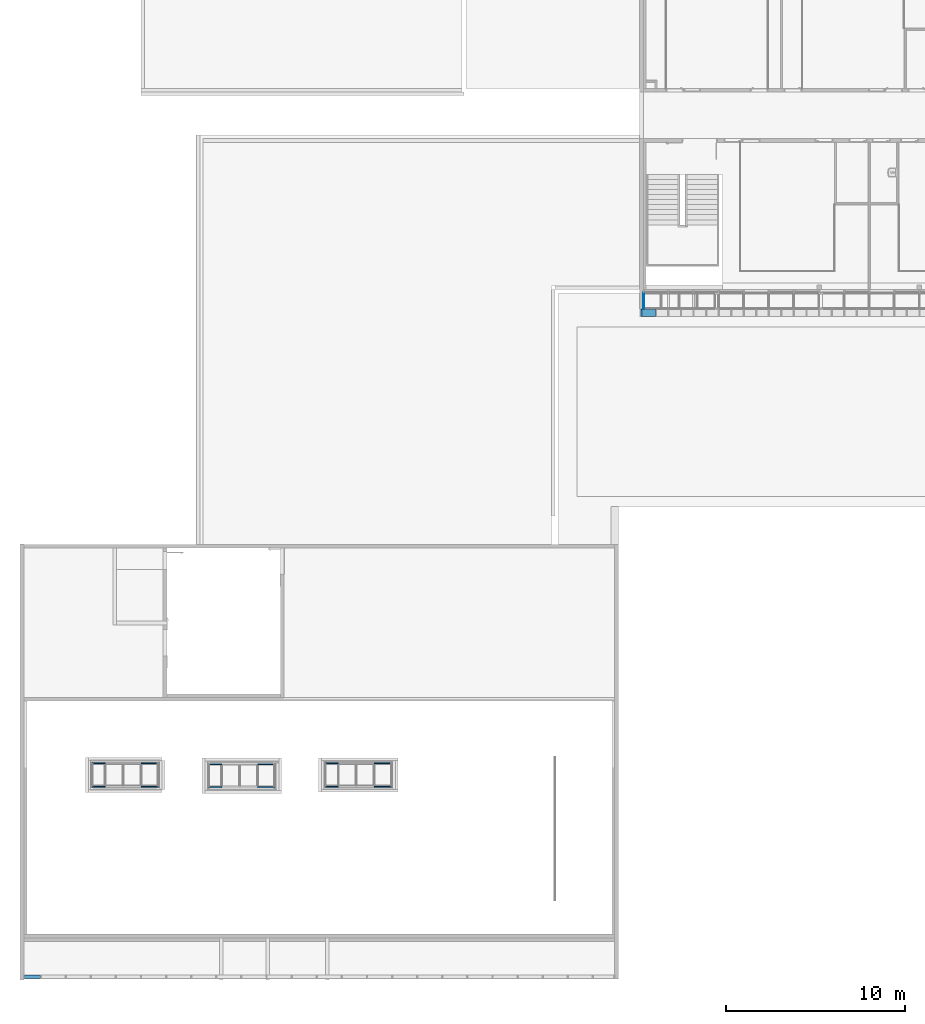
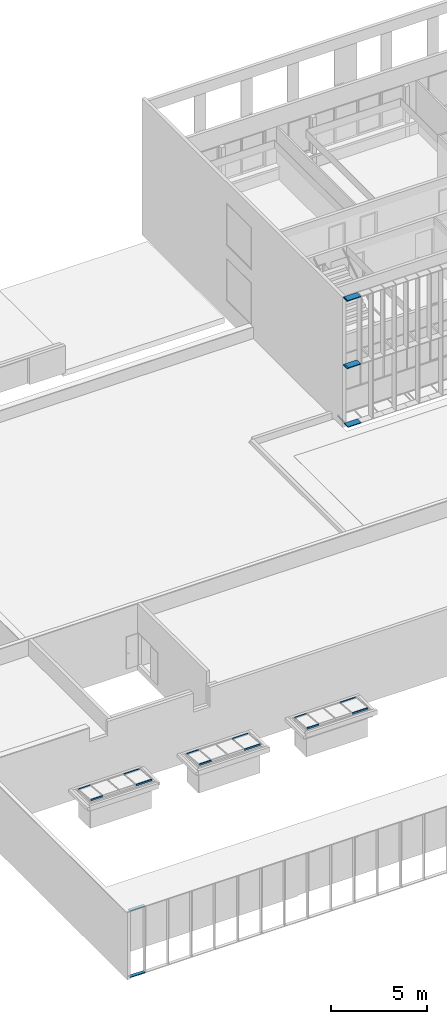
# One storey, part 19 of 106: 20 members, 6 elements without a shape of their own.
"""IFC2X3 building model written with IfcOpenShell, lengths in centimetres."""

from ifc_helpers import new_model, entity, si_unit, converted_unit, derived_unit, direction, frame, origin, origin_2d_with_axis, place, context, subcontext, project, spatial, rectangle, extrude, source, transform, mapped, material, type_object, type_shapes, element, aggregate, save


model = new_model("IFC2X3")

# Units and contexts
model_context = context("Model", 3, precision=0.001, world=origin(), true_north=direction((6.12303176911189e-17, 1.0)))
body_context = subcontext(model_context, "Body", "Model", "MODEL_VIEW")
ifc_project = project(units=[si_unit("LENGTHUNIT", "METRE", prefix="CENTI"), si_unit("AREAUNIT", "SQUARE_METRE"), si_unit("VOLUMEUNIT", "CUBIC_METRE"), converted_unit("PLANEANGLEUNIT", "DEGREE", entity("IfcRatioMeasure", 0.0174532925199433), si_unit("PLANEANGLEUNIT", "RADIAN"), dimensions=[0, 0, 0, 0, 0, 0, 0]), si_unit("MASSUNIT", "GRAM", prefix="KILO"), derived_unit("MASSDENSITYUNIT", [(si_unit("MASSUNIT", "GRAM", prefix="KILO"), 1), (si_unit("LENGTHUNIT", "METRE"), -3)]), si_unit("TIMEUNIT", "SECOND"), si_unit("FREQUENCYUNIT", "HERTZ"), si_unit("THERMODYNAMICTEMPERATUREUNIT", "DEGREE_CELSIUS"), derived_unit("THERMALTRANSMITTANCEUNIT", [(si_unit("MASSUNIT", "GRAM", prefix="KILO"), 1), (si_unit("THERMODYNAMICTEMPERATUREUNIT", "KELVIN"), -1), (si_unit("TIMEUNIT", "SECOND"), -3)]), derived_unit("VOLUMETRICFLOWRATEUNIT", [(si_unit("LENGTHUNIT", "METRE"), 3), (si_unit("TIMEUNIT", "SECOND"), -1)]), si_unit("ELECTRICCURRENTUNIT", "AMPERE"), si_unit("ELECTRICVOLTAGEUNIT", "VOLT"), si_unit("POWERUNIT", "WATT"), si_unit("FORCEUNIT", "NEWTON", prefix="KILO"), si_unit("ILLUMINANCEUNIT", "LUX"), si_unit("LUMINOUSFLUXUNIT", "LUMEN"), si_unit("LUMINOUSINTENSITYUNIT", "CANDELA"), derived_unit("USERDEFINED", [(si_unit("MASSUNIT", "GRAM", prefix="KILO"), -1), (si_unit("LENGTHUNIT", "METRE"), -2), (si_unit("TIMEUNIT", "SECOND"), 3), (si_unit("LUMINOUSFLUXUNIT", "LUMEN"), 1)]), derived_unit("LINEARVELOCITYUNIT", [(si_unit("LENGTHUNIT", "METRE"), 1), (si_unit("TIMEUNIT", "SECOND"), -1)]), si_unit("PRESSUREUNIT", "PASCAL"), derived_unit("USERDEFINED", [(si_unit("LENGTHUNIT", "METRE"), -2), (si_unit("MASSUNIT", "GRAM", prefix="KILO"), 1), (si_unit("TIMEUNIT", "SECOND"), -2)])], contexts=[model_context])

# Site, building, storey
site_placement = place(None, frame((-2781.94577612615, 7442.24238424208, 0.0)))
site = spatial("IfcSite", under=ifc_project, at=site_placement, Name="Default", CompositionType="ELEMENT")
building_placement = place(site_placement, origin())
building = spatial("IfcBuilding", under=site, at=building_placement, CompositionType="ELEMENT")
storey_placement = place(building_placement, frame((0.0, 0.0, 422.0)))
storey = spatial("IfcBuildingStorey", under=building, at=storey_placement, Name="Toiture - Cuisine", CompositionType="ELEMENT", Elevation=421.999999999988)

# Roof, member
curtain_wall_type_1 = type_object("IfcCurtainWallType", Name="Vitres inclinées:Toit en verre 1 m x 2 m", PredefinedType="NOTDEFINED")
roof_1_placement = place(building_placement, origin())
roof_1 = element("IfcRoof", 1, at=roof_1_placement, inside=storey, type_object=curtain_wall_type_1, Name="Vitres inclinées:Toit en verre 1 m x 2 m", ObjectType="Vitres inclinées:Toit en verre 1 m x 2 m", ShapeType="NOTDEFINED")
ifc_material_1 = material(Name="Plastique, blanc opaque")
member_type_1 = type_object("IfcMemberType", Name="100 x 50mm", PredefinedType="MEMBER")
shared_shape_1 = source(origin(), body_context, "Body", "SweptSolid", [
    extrude(rectangle(XDim=10.0, YDim=5.0, at=origin_2d_with_axis()), frame((-2.5, 0.0, -95.0), z_axis=(0.0, 0.0, 1.0), x_axis=(0.0, -1.0, 0.0)), (0.0, 0.0, 1.0), 95.0000000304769),
])
type_shapes(member_type_1, [shared_shape_1])
member_1_placement = place(building_placement, frame((-11114.3505746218, -4705.23544597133, 662.161362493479), z_axis=(1.0, 0.0, 0.0), x_axis=(0.0, -0.996194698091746, 0.0871557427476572)))
member_1 = element("IfcMember", 2, at=member_1_placement, type_object=member_type_1, material=ifc_material_1, Name="Meneau rectangulaire:100 x 50mm", ObjectType="Meneau rectangulaire:100 x 50mm", context=body_context, shape_type="MappedRepresentation", body=[
    mapped(shared_shape_1, transform((0.0, 0.0, 0.0), scale=1.0)),
])

roof_2_placement = place(building_placement, origin())
roof_2 = element("IfcRoof", 3, at=roof_2_placement, inside=storey, type_object=curtain_wall_type_1, Name="Vitres inclinées:Toit en verre 1 m x 2 m", ObjectType="Vitres inclinées:Toit en verre 1 m x 2 m", ShapeType="NOTDEFINED")
member_2_placement = place(building_placement, frame((-10464.3505746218, -4709.23544597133, 662.161362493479), z_axis=(1.0, 0.0, 0.0), x_axis=(0.0, -0.996194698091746, 0.0871557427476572)))
member_2 = element("IfcMember", 4, at=member_2_placement, type_object=member_type_1, material=ifc_material_1, Name="Meneau rectangulaire:100 x 50mm", ObjectType="Meneau rectangulaire:100 x 50mm", context=body_context, shape_type="MappedRepresentation", body=[
    mapped(shared_shape_1, transform((0.0, 0.0, 0.0), scale=1.0)),
])

roof_3_placement = place(building_placement, origin())
roof_3 = element("IfcRoof", 5, at=roof_3_placement, inside=storey, type_object=curtain_wall_type_1, Name="Vitres inclinées:Toit en verre 1 m x 2 m", ObjectType="Vitres inclinées:Toit en verre 1 m x 2 m", ShapeType="NOTDEFINED")
member_3_placement = place(building_placement, frame((-9814.35057462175, -4705.2161509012, 662.161362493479), z_axis=(1.0, 0.0, 0.0), x_axis=(0.0, -0.996194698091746, 0.0871557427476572)))
member_3 = element("IfcMember", 6, at=member_3_placement, type_object=member_type_1, material=ifc_material_1, Name="Meneau rectangulaire:100 x 50mm", ObjectType="Meneau rectangulaire:100 x 50mm", context=body_context, shape_type="MappedRepresentation", body=[
    mapped(shared_shape_1, transform((0.0, 0.0, 0.0), scale=1.0)),
])

# Member
member_type_2 = type_object("IfcMemberType", Name="100 x 50mm", PredefinedType="MEMBER")
shared_shape_2 = source(origin(), body_context, "Body", "SweptSolid", [
    extrude(rectangle(XDim=10.0, YDim=5.0, at=origin_2d_with_axis()), frame((-2.5, 0.0, -95.0), z_axis=(0.0, 0.0, 1.0), x_axis=(0.0, -1.0, 0.0)), (0.0, 0.0, 1.0), 95.0000000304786),
])
type_shapes(member_type_2, [shared_shape_2])
member_4_placement = place(building_placement, frame((-11209.3505746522, -4571.25027342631, 650.439178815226), z_axis=(-1.0, 0.0, 0.0), x_axis=(0.0, 0.996194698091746, -0.0871557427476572)))
member_4 = element("IfcMember", 7, at=member_4_placement, type_object=member_type_2, material=ifc_material_1, Name="Meneau rectangulaire:100 x 50mm", ObjectType="Meneau rectangulaire:100 x 50mm", context=body_context, shape_type="MappedRepresentation", body=[
    mapped(shared_shape_2, transform((0.0, 0.0, 0.0), scale=1.0)),
])

member_5_placement = place(building_placement, frame((-10559.3505746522, -4575.25027342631, 650.439178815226), z_axis=(-1.0, 0.0, 0.0), x_axis=(0.0, 0.996194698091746, -0.0871557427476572)))
member_5 = element("IfcMember", 8, at=member_5_placement, type_object=member_type_2, material=ifc_material_1, Name="Meneau rectangulaire:100 x 50mm", ObjectType="Meneau rectangulaire:100 x 50mm", context=body_context, shape_type="MappedRepresentation", body=[
    mapped(shared_shape_2, transform((0.0, 0.0, 0.0), scale=1.0)),
])

member_6_placement = place(building_placement, frame((-9909.35057465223, -4571.23097835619, 650.439178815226), z_axis=(-1.0, 0.0, 0.0), x_axis=(0.0, 0.996194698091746, -0.0871557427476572)))
member_6 = element("IfcMember", 9, at=member_6_placement, type_object=member_type_2, material=ifc_material_1, Name="Meneau rectangulaire:100 x 50mm", ObjectType="Meneau rectangulaire:100 x 50mm", context=body_context, shape_type="MappedRepresentation", body=[
    mapped(shared_shape_2, transform((0.0, 0.0, 0.0), scale=1.0)),
])

# Roof, member
roof_4_placement = place(building_placement, origin())
roof_4 = element("IfcRoof", 10, at=roof_4_placement, inside=storey, type_object=curtain_wall_type_1, Name="Vitres inclinées:Toit en verre 1 m x 2 m", ObjectType="Vitres inclinées:Toit en verre 1 m x 2 m", ShapeType="NOTDEFINED")
member_type_3 = type_object("IfcMemberType", Name="100 x 50mm", PredefinedType="MEMBER")
shared_shape_3 = source(origin(), body_context, "Body", "SweptSolid", [
    extrude(rectangle(XDim=10.0, YDim=5.0, at=origin_2d_with_axis()), frame((-2.5, 0.0, -90.1235111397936), z_axis=(0.0, 0.0, 1.0), x_axis=(0.0, -1.0, 0.0)), (0.0, 0.0, 1.0), 90.1235111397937),
])
type_shapes(member_type_3, [shared_shape_3])
member_7_placement = place(building_placement, frame((-8409.49987766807, -2040.34071342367, 357.99314767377), z_axis=(0.0, -0.998629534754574, -0.0523359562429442), x_axis=(-1.0, 0.0, 0.0)))
member_7 = element("IfcMember", 11, at=member_7_placement, type_object=member_type_3, material=ifc_material_1, Name="Meneau rectangulaire:100 x 50mm", ObjectType="Meneau rectangulaire:100 x 50mm", context=body_context, shape_type="MappedRepresentation", body=[
    mapped(shared_shape_3, transform((0.0, 0.0, 0.0), scale=1.0)),
])
aggregate(roof_4, [member_7])

# Curtain wall, members
curtain_wall_type_2 = type_object("IfcCurtainWallType", Name="Mur-rideau:Epines - 200x50mm", PredefinedType="NOTDEFINED")
curtain_wall_1_placement = place(building_placement, origin())
curtain_wall_1 = element("IfcCurtainWall", 12, at=curtain_wall_1_placement, inside=storey, type_object=curtain_wall_type_2, Name="Mur-rideau:Epines - 200x50mm", ObjectType="Mur-rideau:Epines - 200x50mm")
ifc_material_2 = material(Name="Aluminium")
member_type_4 = type_object("IfcMemberType", Name="200x50 mm", PredefinedType="MEMBER")
shared_shape_4 = source(origin(), body_context, "Body", "SweptSolid", [
    extrude(rectangle(XDim=20.0, YDim=5.0, at=origin_2d_with_axis()), frame((-2.5, 0.0, -93.8631937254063), z_axis=(0.0, 0.0, 1.0), x_axis=(0.0, -1.0, 0.0)), (0.0, 0.0, 1.0), 93.8631937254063),
])
type_shapes(member_type_4, [shared_shape_4])
member_8_placement = place(building_placement, frame((-11864.3505746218, -5764.00173441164, 740.0), z_axis=(-1.0, 0.0, 0.0), x_axis=(0.0, 0.0, 1.0)))
member_8 = element("IfcMember", 13, at=member_8_placement, type_object=member_type_4, material=ifc_material_2, Name="Meneau rectangulaire:200x50 mm", ObjectType="Meneau rectangulaire:200x50 mm", context=body_context, shape_type="MappedRepresentation", body=[
    mapped(shared_shape_4, transform((0.0, 0.0, 0.0), scale=1.0)),
])
member_type_5 = type_object("IfcMemberType", Name="200x50 mm", PredefinedType="MEMBER")
shared_shape_5 = source(origin(), body_context, "Body", "SweptSolid", [
    extrude(rectangle(XDim=20.0, YDim=5.0, at=origin_2d_with_axis()), frame((-2.5, 0.0, -93.8631937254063), z_axis=(0.0, 0.0, 1.0), x_axis=(0.0, -1.0, 0.0)), (0.0, 0.0, 1.0), 93.8631937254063),
])
type_shapes(member_type_5, [shared_shape_5])
member_9_placement = place(building_placement, frame((-11770.4873808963, -5764.00173441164, 313.0), z_axis=(1.0, 0.0, 0.0), x_axis=(0.0, 0.0, -1.0)))
member_9 = element("IfcMember", 14, at=member_9_placement, type_object=member_type_5, material=ifc_material_2, Name="Meneau rectangulaire:200x50 mm", ObjectType="Meneau rectangulaire:200x50 mm", context=body_context, shape_type="MappedRepresentation", body=[
    mapped(shared_shape_5, transform((0.0, 0.0, 0.0), scale=1.0)),
])
aggregate(curtain_wall_1, [member_8, member_9])

# Member
member_type_6 = type_object("IfcMemberType", Name="100 x 50mm", PredefinedType="MEMBER")
shared_shape_6 = source(origin(), body_context, "Body", "SweptSolid", [
    extrude(rectangle(XDim=10.0, YDim=5.0, at=origin_2d_with_axis()), frame((-2.5, 0.0, -72.2999999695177), z_axis=(0.0, 0.0, 1.0), x_axis=(0.0, -1.0, 0.0)), (0.0, 0.0, 1.0), 72.2999999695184),
])
type_shapes(member_type_6, [shared_shape_6])
member_10_placement = place(building_placement, frame((-11481.6505746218, -4571.25027342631, 650.439178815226), z_axis=(-1.0, 0.0, 0.0), x_axis=(0.0, 0.996194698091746, -0.0871557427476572)))
member_10 = element("IfcMember", 15, at=member_10_placement, type_object=member_type_6, material=ifc_material_1, Name="Meneau rectangulaire:100 x 50mm", ObjectType="Meneau rectangulaire:100 x 50mm", context=body_context, shape_type="MappedRepresentation", body=[
    mapped(shared_shape_6, transform((0.0, 0.0, 0.0), scale=1.0)),
])

member_11_placement = place(building_placement, frame((-10831.6505746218, -4575.25027342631, 650.439178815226), z_axis=(-1.0, 0.0, 0.0), x_axis=(0.0, 0.996194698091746, -0.0871557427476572)))
member_11 = element("IfcMember", 16, at=member_11_placement, type_object=member_type_6, material=ifc_material_1, Name="Meneau rectangulaire:100 x 50mm", ObjectType="Meneau rectangulaire:100 x 50mm", context=body_context, shape_type="MappedRepresentation", body=[
    mapped(shared_shape_6, transform((0.0, 0.0, 0.0), scale=1.0)),
])

member_12_placement = place(building_placement, frame((-10181.6505746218, -4571.23097835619, 650.439178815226), z_axis=(-1.0, 0.0, 0.0), x_axis=(0.0, 0.996194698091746, -0.0871557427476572)))
member_12 = element("IfcMember", 17, at=member_12_placement, type_object=member_type_6, material=ifc_material_1, Name="Meneau rectangulaire:100 x 50mm", ObjectType="Meneau rectangulaire:100 x 50mm", context=body_context, shape_type="MappedRepresentation", body=[
    mapped(shared_shape_6, transform((0.0, 0.0, 0.0), scale=1.0)),
])

member_type_7 = type_object("IfcMemberType", Name="100 x 50mm", PredefinedType="MEMBER")
shared_shape_7 = source(origin(), body_context, "Body", "SweptSolid", [
    extrude(rectangle(XDim=10.0, YDim=5.0, at=origin_2d_with_axis()), frame((-2.5, 0.0, -72.2999999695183), z_axis=(0.0, 0.0, 1.0), x_axis=(0.0, -1.0, 0.0)), (0.0, 0.0, 1.0), 72.2999999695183),
])
type_shapes(member_type_7, [shared_shape_7])
member_13_placement = place(building_placement, frame((-11409.3505746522, -4705.23544597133, 662.161362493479), z_axis=(1.0, 0.0, 0.0), x_axis=(0.0, -0.996194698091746, 0.0871557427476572)))
member_13 = element("IfcMember", 18, at=member_13_placement, type_object=member_type_7, material=ifc_material_1, Name="Meneau rectangulaire:100 x 50mm", ObjectType="Meneau rectangulaire:100 x 50mm", context=body_context, shape_type="MappedRepresentation", body=[
    mapped(shared_shape_7, transform((0.0, 0.0, 0.0), scale=1.0)),
])

aggregate(roof_1, [member_10, member_1, member_4, member_13])

member_14_placement = place(building_placement, frame((-10759.3505746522, -4709.23544597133, 662.161362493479), z_axis=(1.0, 0.0, 0.0), x_axis=(0.0, -0.996194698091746, 0.0871557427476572)))
member_14 = element("IfcMember", 19, at=member_14_placement, type_object=member_type_7, material=ifc_material_1, Name="Meneau rectangulaire:100 x 50mm", ObjectType="Meneau rectangulaire:100 x 50mm", context=body_context, shape_type="MappedRepresentation", body=[
    mapped(shared_shape_7, transform((0.0, 0.0, 0.0), scale=1.0)),
])

aggregate(roof_2, [member_11, member_2, member_5, member_14])

member_15_placement = place(building_placement, frame((-10109.3505746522, -4705.2161509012, 662.161362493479), z_axis=(1.0, 0.0, 0.0), x_axis=(0.0, -0.996194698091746, 0.0871557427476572)))
member_15 = element("IfcMember", 20, at=member_15_placement, type_object=member_type_7, material=ifc_material_1, Name="Meneau rectangulaire:100 x 50mm", ObjectType="Meneau rectangulaire:100 x 50mm", context=body_context, shape_type="MappedRepresentation", body=[
    mapped(shared_shape_7, transform((0.0, 0.0, 0.0), scale=1.0)),
])

aggregate(roof_3, [member_12, member_3, member_6, member_15])

# Curtain wall, members
curtain_wall_type_3 = type_object("IfcCurtainWallType", Name="Mur-rideau:Epines - 400x30mm", PredefinedType="NOTDEFINED")
curtain_wall_2_placement = place(building_placement, origin())
curtain_wall_2 = element("IfcCurtainWall", 21, at=curtain_wall_2_placement, inside=storey, type_object=curtain_wall_type_3, Name="Mur-rideau:Epines - 400x30mm", ObjectType="Mur-rideau:Epines - 400x30mm")
member_type_8 = type_object("IfcMemberType", Name="Epine sud (400x50 mm)", PredefinedType="MEMBER")
shared_shape_8 = source(origin(), body_context, "Body", "SweptSolid", [
    extrude(rectangle(XDim=40.0, YDim=5.0, at=origin_2d_with_axis()), frame((-2.5, 0.0, -80.0), z_axis=(0.0, 0.0, 1.0), x_axis=(0.0, -1.0, 0.0)), (0.0, 0.0, 1.0), 80.0000000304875),
])
type_shapes(member_type_8, [shared_shape_8])
member_16_placement = place(building_placement, frame((-8419.49987766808, -2060.07903364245, 367.449291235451), z_axis=(-1.0, 0.0, 0.0), x_axis=(0.0, 0.0, -1.0)))
member_16 = element("IfcMember", 22, at=member_16_placement, type_object=member_type_8, material=ifc_material_2, Name="Meneau rectangulaire:Epine sud (400x50 mm)", ObjectType="Meneau rectangulaire:Epine sud (400x50 mm)", context=body_context, shape_type="MappedRepresentation", body=[
    mapped(shared_shape_8, transform((0.0, 0.0, 0.0), scale=1.0)),
])
member_type_9 = type_object("IfcMemberType", Name="Epine sud (400x50 mm)", PredefinedType="MEMBER")
shared_shape_9 = source(origin(), body_context, "Body", "SweptSolid", [
    extrude(rectangle(XDim=40.0, YDim=5.0, at=origin_2d_with_axis()), frame((0.0, 0.0, -77.5000000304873), z_axis=(0.0, 0.0, 1.0), x_axis=(0.0, -1.0, 0.0)), (0.0, 0.0, 1.0), 77.5000000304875),
])
type_shapes(member_type_9, [shared_shape_9])
member_17_placement = place(building_placement, frame((-8341.99987763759, -2060.07903364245, 745.4), z_axis=(1.0, 0.0, 0.0), x_axis=(0.0, 0.0, 1.0)))
member_17 = element("IfcMember", 23, at=member_17_placement, type_object=member_type_9, material=ifc_material_2, Name="Meneau rectangulaire:Epine sud (400x50 mm)", ObjectType="Meneau rectangulaire:Epine sud (400x50 mm)", context=body_context, shape_type="MappedRepresentation", body=[
    mapped(shared_shape_9, transform((0.0, 0.0, 0.0), scale=1.0)),
])
member_type_10 = type_object("IfcMemberType", Name="Epine sud (400x50 mm)", PredefinedType="MEMBER")
shared_shape_10 = source(origin(), body_context, "Body", "SweptSolid", [
    extrude(rectangle(XDim=40.0, YDim=5.0, at=origin_2d_with_axis()), frame((-2.5, 0.0, -77.5000000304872), z_axis=(0.0, 0.0, 1.0), x_axis=(0.0, -1.0, 0.0)), (0.0, 0.0, 1.0), 77.5000000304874),
])
type_shapes(member_type_10, [shared_shape_10])
member_18_placement = place(building_placement, frame((-8341.99987763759, -2060.07903364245, 1176.0), z_axis=(1.0, 0.0, 0.0), x_axis=(0.0, 0.0, 1.0)))
member_18 = element("IfcMember", 24, at=member_18_placement, type_object=member_type_10, material=ifc_material_2, Name="Meneau rectangulaire:Epine sud (400x50 mm)", ObjectType="Meneau rectangulaire:Epine sud (400x50 mm)", context=body_context, shape_type="MappedRepresentation", body=[
    mapped(shared_shape_10, transform((0.0, 0.0, 0.0), scale=1.0)),
])
member_type_11 = type_object("IfcMemberType", Name="Epine sud (400x50 mm)", PredefinedType="MEMBER")
shared_shape_11 = source(origin(), body_context, "Body", "SweptSolid", [
    extrude(rectangle(XDim=40.0, YDim=5.0, at=origin_2d_with_axis()), frame((-2.5, 0.0, -5.00000315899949), z_axis=(0.0, 0.0, 1.0), x_axis=(0.0, -1.0, 0.0)), (0.0, 0.0, 1.0), 5.00000315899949),
])
type_shapes(member_type_11, [shared_shape_11])
member_19_placement = place(building_placement, frame((-8419.49987766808, -2060.07903364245, 1176.0), z_axis=(1.0, 0.0, 0.0), x_axis=(0.0, 0.0, 1.0)))
member_19 = element("IfcMember", 25, at=member_19_placement, type_object=member_type_11, material=ifc_material_2, Name="Meneau rectangulaire:Epine sud (400x50 mm)", ObjectType="Meneau rectangulaire:Epine sud (400x50 mm)", context=body_context, shape_type="MappedRepresentation", body=[
    mapped(shared_shape_11, transform((0.0, 0.0, 0.0), scale=1.0)),
])
member_type_12 = type_object("IfcMemberType", Name="Epine sud (400x50 mm)", PredefinedType="MEMBER")
shared_shape_12 = source(origin(), body_context, "Body", "SweptSolid", [
    extrude(rectangle(XDim=40.0, YDim=5.0, at=origin_2d_with_axis()), frame((0.0, 0.0, -5.00000315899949), z_axis=(0.0, 0.0, 1.0), x_axis=(0.0, -1.0, 0.0)), (0.0, 0.0, 1.0), 5.00000315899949),
])
type_shapes(member_type_12, [shared_shape_12])
member_20_placement = place(building_placement, frame((-8419.49987766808, -2060.07903364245, 745.4), z_axis=(1.0, 0.0, 0.0), x_axis=(0.0, 0.0, 1.0)))
member_20 = element("IfcMember", 26, at=member_20_placement, type_object=member_type_12, material=ifc_material_2, Name="Meneau rectangulaire:Epine sud (400x50 mm)", ObjectType="Meneau rectangulaire:Epine sud (400x50 mm)", context=body_context, shape_type="MappedRepresentation", body=[
    mapped(shared_shape_12, transform((0.0, 0.0, 0.0), scale=1.0)),
])
aggregate(curtain_wall_2, [member_16, member_17, member_18, member_19, member_20])

save(model, "model.ifc")
